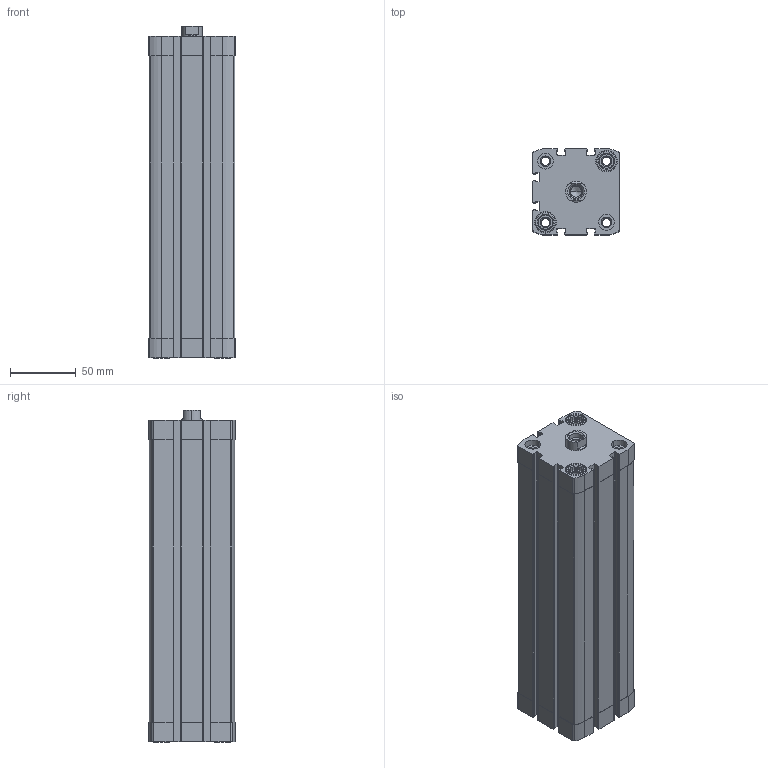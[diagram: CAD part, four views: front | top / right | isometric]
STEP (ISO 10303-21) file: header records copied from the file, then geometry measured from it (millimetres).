
FILE_DESCRIPTION (( 'STEP AP203' ), '1' );
FILE_NAME ('CCN50-200F.STEP', '2017-04-03T16:06:30', ( '' ), ( '' ), 'SwSTEP 2.0', 'SolidWorks 2016', '' );
FILE_SCHEMA (( 'CONFIG_CONTROL_DESIGN' ));
Length unit declared in the file: millimetre
Products named in the file (3): CCN-200----(Z); CCN-200_(KS); CCN50-200F
Assembly tree (2 placements, depth 2):
  CCN50-200F
    CCN-200----(Z)
    CCN-200_(KS)
Bounding box: 65.5 x 65.5 x 252.7 mm (x, y, z)
Volume: 589455.5 mm3; surface area: 167518.1 mm2
Topology: 2 solids, 2 shells, 471 faces, 1282 edges, 845 vertices
Faces by surface type: plane 219, cylinder 210, cone 42
Entity records: 15389 total; most frequent: CARTESIAN_POINT 2895, DIRECTION 2612, ORIENTED_EDGE 2560, EDGE_CURVE 1280, AXIS2_PLACEMENT_3D 954, VERTEX_POINT 845, VECTOR 704, LINE 704
